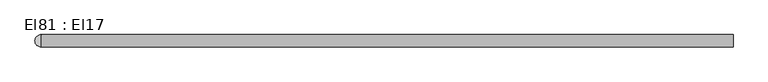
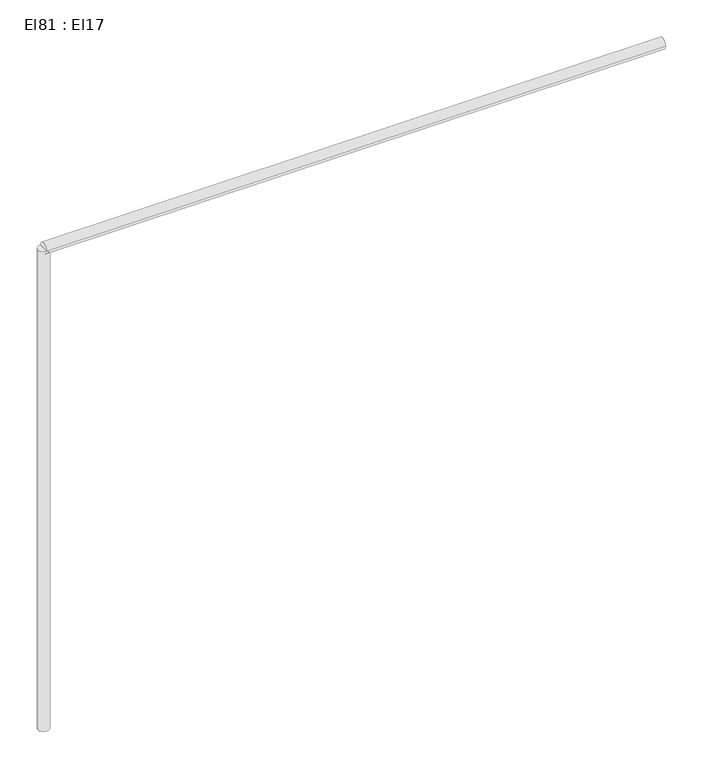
"""IFC4 building model written with IfcOpenShell, lengths in millimetres: cable carrier segment geometry, El81 : El17."""

from ifc_helpers import new_model, si_unit, point, frame, frame_2d, origin, place, context, project, spatial, circle_curve, trimmed, segment, composite_curve, outline, extrude, source, transform, mapped, element, save


def el81_el17_a5bba89e(model_context):
    return source(origin(), model_context, "Body", "SweptSolid", [
        extrude(outline(composite_curve([segment(trimmed(circle_curve(frame_2d((2916.4576511, 4566.0121745)), 9.5), [point((2906.9576511, 4566.0121745))], [point((2925.9576511, 4566.0121745))], False, "CARTESIAN"), True, "CONTINUOUS"), segment(trimmed(circle_curve(frame_2d((2916.4576511, 4566.0121745)), 9.5), [point((2925.9576511, 4566.0121745))], [point((2906.9576511, 4566.0121745))], False, "CARTESIAN"), True, "CONTINUOUS")], self_intersect=False)), frame((0.0, 0.0, 1830.0), z_axis=(0.0, 0.0, 1.0), x_axis=(1.0, 0.0, 0.0)), (0.0, 0.0, 1.0), 870.0),
        extrude(outline(composite_curve([segment(trimmed(circle_curve(frame_2d((4566.0121745, 2700.0)), 9.5), [point((4556.5121745, 2700.0))], [point((4575.5121745, 2700.0))], False, "CARTESIAN"), True, "CONTINUOUS"), segment(trimmed(circle_curve(frame_2d((4566.0121745, 2700.0)), 9.5), [point((4575.5121745, 2700.0))], [point((4556.5121745, 2700.0))], False, "CARTESIAN"), True, "CONTINUOUS")], self_intersect=False)), frame((2916.4616511, 0.0, 0.0), z_axis=(1.0, 0.0, 0.0), x_axis=(0.0, 1.0, 0.0)), (0.0, 0.0, 1.0), 1061.55),
    ])


if __name__ == "__main__":
    model = new_model("IFC4")
    model_context = context("Model", 3, world=origin())
    ifc_project = project(units=[si_unit("LENGTHUNIT", "METRE", prefix="MILLI")], contexts=[model_context])
    site = spatial("IfcSite", under=ifc_project)
    building = spatial("IfcBuilding", under=site)
    placement = place(None, origin())
    el81_el17_shape = el81_el17_a5bba89e(model_context)
    element("IfcCableCarrierSegment", 1, ObjectType="El81 : El17", at=placement, inside=building, context=model_context, shape_type="MappedRepresentation", body=[
        mapped(el81_el17_shape, transform((0.0, 0.0, 0.0), x_axis=(1.0, 0.0, 0.0), y_axis=(0.0, 1.0, 0.0), z_axis=(0.0, 0.0, 1.0))),
    ])
    save(model, "model.ifc")
